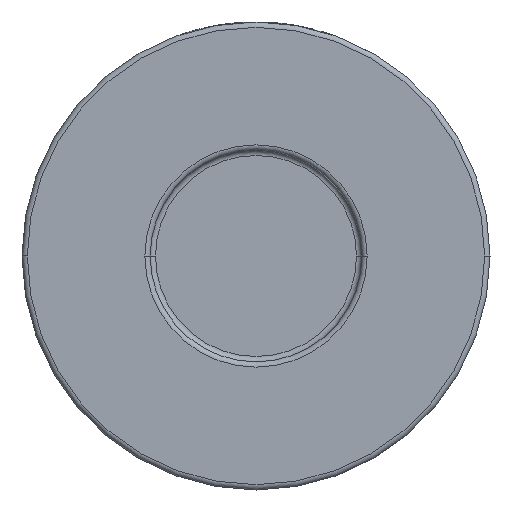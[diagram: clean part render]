
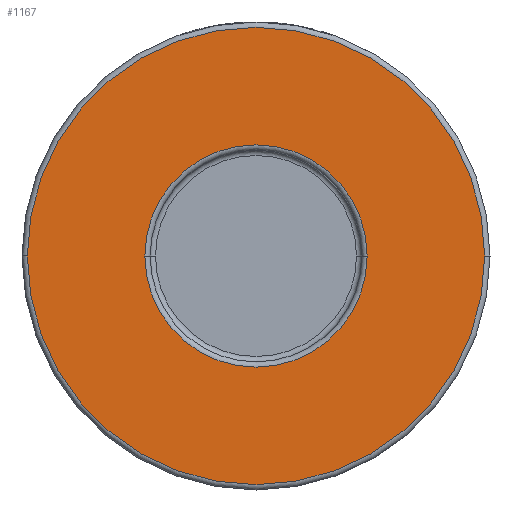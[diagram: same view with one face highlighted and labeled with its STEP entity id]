
A CAD part, front view. The second image highlights one B-rep face of the part: STEP entity #1167.
In plain terms, the highlighted planar face has unit normal (0, -1, 0).
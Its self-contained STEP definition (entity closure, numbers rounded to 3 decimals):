
#176 = CIRCLE ( 'NONE', #3571, 43. ) ;
#184 = VERTEX_POINT ( 'NONE', #1880 ) ;
#215 = DIRECTION ( 'NONE',  ( 0., 1., 0. ) ) ;
#242 = AXIS2_PLACEMENT_3D ( 'NONE', #3964, #2987, #2641 ) ;
#260 = CARTESIAN_POINT ( 'NONE',  ( 44., -19., 0. ) ) ;
#375 = ORIENTED_EDGE ( 'NONE', *, *, #1925, .T. ) ;
#547 = CIRCLE ( 'NONE', #1142, 20.9 ) ;
#934 = CIRCLE ( 'NONE', #1528, 20.9 ) ;
#1008 = DIRECTION ( 'NONE',  ( 1., 0., 0. ) ) ;
#1142 = AXIS2_PLACEMENT_3D ( 'NONE', #2476, #2496, #4226 ) ;
#1167 = ADVANCED_FACE ( 'NONE', ( #2366, #2753 ), #3751, .T. ) ;
#1320 = VERTEX_POINT ( 'NONE', #3184 ) ;
#1324 = ORIENTED_EDGE ( 'NONE', *, *, #3028, .T. ) ;
#1425 = EDGE_CURVE ( 'NONE', #1662, #1320, #934, .T. ) ;
#1528 = AXIS2_PLACEMENT_3D ( 'NONE', #1669, #215, #3007 ) ;
#1662 = VERTEX_POINT ( 'NONE', #1729 ) ;
#1668 = DIRECTION ( 'NONE',  ( 0., -1., 0. ) ) ;
#1669 = CARTESIAN_POINT ( 'NONE',  ( 0., -19., 0. ) ) ;
#1729 = CARTESIAN_POINT ( 'NONE',  ( 20.9, -19., 0. ) ) ;
#1880 = CARTESIAN_POINT ( 'NONE',  ( 43., -19., 0. ) ) ;
#1925 = EDGE_CURVE ( 'NONE', #184, #2284, #3860, .T. ) ;
#2035 = ORIENTED_EDGE ( 'NONE', *, *, #2791, .T. ) ;
#2284 = VERTEX_POINT ( 'NONE', #3197 ) ;
#2366 = FACE_BOUND ( 'NONE', #4365, .T. ) ;
#2408 = ORIENTED_EDGE ( 'NONE', *, *, #1425, .T. ) ;
#2476 = CARTESIAN_POINT ( 'NONE',  ( 0., -19., 0. ) ) ;
#2496 = DIRECTION ( 'NONE',  ( 0., 1., 0. ) ) ;
#2641 = DIRECTION ( 'NONE',  ( 1., 0., 0. ) ) ;
#2753 = FACE_OUTER_BOUND ( 'NONE', #3074, .T. ) ;
#2791 = EDGE_CURVE ( 'NONE', #1320, #1662, #547, .T. ) ;
#2987 = DIRECTION ( 'NONE',  ( 0., -1., 0. ) ) ;
#3007 = DIRECTION ( 'NONE',  ( 1., 0., 0. ) ) ;
#3028 = EDGE_CURVE ( 'NONE', #2284, #184, #176, .T. ) ;
#3074 = EDGE_LOOP ( 'NONE', ( #375, #1324 ) ) ;
#3184 = CARTESIAN_POINT ( 'NONE',  ( -20.9, -19., 0. ) ) ;
#3197 = CARTESIAN_POINT ( 'NONE',  ( -43., -19., 0. ) ) ;
#3369 = DIRECTION ( 'NONE',  ( 1., 0., 0. ) ) ;
#3571 = AXIS2_PLACEMENT_3D ( 'NONE', #3779, #4425, #3369 ) ;
#3751 = PLANE ( 'NONE',  #3859 ) ;
#3779 = CARTESIAN_POINT ( 'NONE',  ( 0., -19., 0. ) ) ;
#3859 = AXIS2_PLACEMENT_3D ( 'NONE', #260, #1668, #1008 ) ;
#3860 = CIRCLE ( 'NONE', #242, 43. ) ;
#3964 = CARTESIAN_POINT ( 'NONE',  ( 0., -19., 0. ) ) ;
#4226 = DIRECTION ( 'NONE',  ( 1., 0., 0. ) ) ;
#4365 = EDGE_LOOP ( 'NONE', ( #2408, #2035 ) ) ;
#4425 = DIRECTION ( 'NONE',  ( 0., -1., 0. ) ) ;
